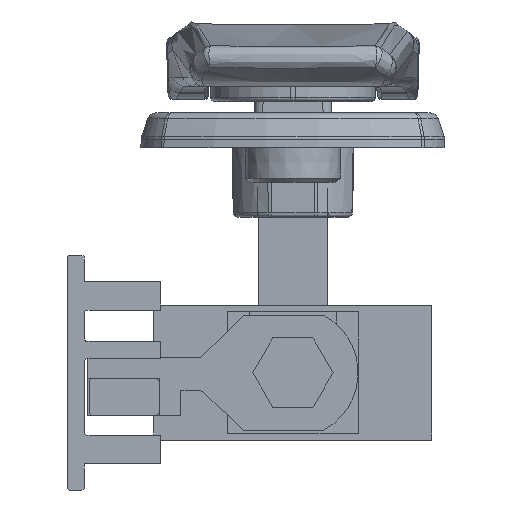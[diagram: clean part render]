
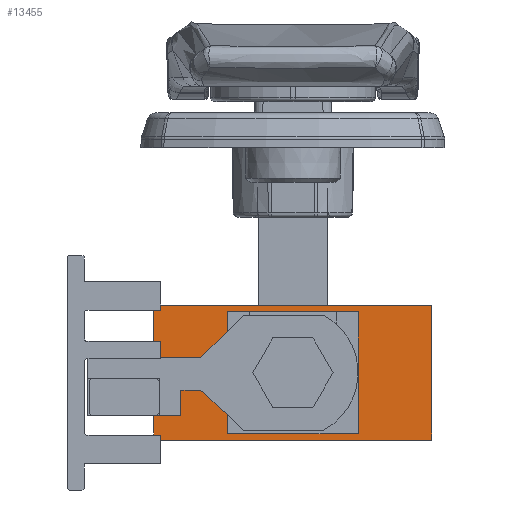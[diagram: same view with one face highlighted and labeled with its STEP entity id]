
A CAD part, front view. The second image highlights one B-rep face of the part: STEP entity #13455.
In plain terms, the highlighted planar face has unit normal (0, -1, 0).
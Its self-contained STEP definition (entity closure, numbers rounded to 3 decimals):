
#466 = VERTEX_POINT ( 'NONE', #6808 ) ;
#474 = VERTEX_POINT ( 'NONE', #6653 ) ;
#1106 = DIRECTION ( 'NONE',  ( 1., 0., 0. ) ) ;
#1478 = CARTESIAN_POINT ( 'NONE',  ( -16., -199.25, 7.75 ) ) ;
#2527 = VECTOR ( 'NONE', #24117, 1000. ) ;
#2619 = CARTESIAN_POINT ( 'NONE',  ( -7., -199.25, -6.25 ) ) ;
#4384 = CARTESIAN_POINT ( 'NONE',  ( 7., -199.25, 6.25 ) ) ;
#5606 = LINE ( 'NONE', #15525, #29724 ) ;
#5998 = DIRECTION ( 'NONE',  ( 0., 0., -1. ) ) ;
#6425 = DIRECTION ( 'NONE',  ( 0., 0., 1. ) ) ;
#6653 = CARTESIAN_POINT ( 'NONE',  ( -7., -199.25, -6.25 ) ) ;
#6664 = LINE ( 'NONE', #2619, #24461 ) ;
#6808 = CARTESIAN_POINT ( 'NONE',  ( -16., -199.25, 7.75 ) ) ;
#6845 = LINE ( 'NONE', #14793, #23293 ) ;
#8079 = ORIENTED_EDGE ( 'NONE', *, *, #31800, .F. ) ;
#9157 = ORIENTED_EDGE ( 'NONE', *, *, #24827, .F. ) ;
#9291 = ORIENTED_EDGE ( 'NONE', *, *, #14295, .T. ) ;
#9587 = VERTEX_POINT ( 'NONE', #17050 ) ;
#9590 = DIRECTION ( 'NONE',  ( 1., 0., 0. ) ) ;
#10769 = CARTESIAN_POINT ( 'NONE',  ( -16., -199.25, -7.75 ) ) ;
#10876 = DIRECTION ( 'NONE',  ( 0., 0., -1. ) ) ;
#11338 = CARTESIAN_POINT ( 'NONE',  ( 7., -199.25, 6.25 ) ) ;
#12942 = VERTEX_POINT ( 'NONE', #10769 ) ;
#13455 = ADVANCED_FACE ( 'NONE', ( #18181, #23754 ), #13780, .F. ) ;
#13467 = VERTEX_POINT ( 'NONE', #11338 ) ;
#13645 = LINE ( 'NONE', #31414, #17750 ) ;
#13678 = CARTESIAN_POINT ( 'NONE',  ( 16., -199.25, 7.75 ) ) ;
#13780 = PLANE ( 'NONE',  #31018 ) ;
#13846 = CARTESIAN_POINT ( 'NONE',  ( -16., -199.25, -7.75 ) ) ;
#14249 = VECTOR ( 'NONE', #6425, 1000. ) ;
#14295 = EDGE_CURVE ( 'NONE', #12942, #9587, #23980, .T. ) ;
#14451 = EDGE_CURVE ( 'NONE', #466, #12942, #19851, .T. ) ;
#14793 = CARTESIAN_POINT ( 'NONE',  ( -16., -199.25, 7.75 ) ) ;
#15525 = CARTESIAN_POINT ( 'NONE',  ( 16., -199.25, 7.75 ) ) ;
#15814 = VECTOR ( 'NONE', #10876, 1000. ) ;
#17042 = EDGE_LOOP ( 'NONE', ( #9291, #8079, #21343, #22351 ) ) ;
#17050 = CARTESIAN_POINT ( 'NONE',  ( 16., -199.25, -7.75 ) ) ;
#17676 = EDGE_CURVE ( 'NONE', #466, #21832, #6845, .T. ) ;
#17750 = VECTOR ( 'NONE', #5998, 1000. ) ;
#18181 = FACE_BOUND ( 'NONE', #22872, .T. ) ;
#18514 = DIRECTION ( 'NONE',  ( 0., 0., 1. ) ) ;
#18626 = ORIENTED_EDGE ( 'NONE', *, *, #22359, .F. ) ;
#19462 = ORIENTED_EDGE ( 'NONE', *, *, #27475, .F. ) ;
#19660 = ORIENTED_EDGE ( 'NONE', *, *, #28799, .F. ) ;
#19851 = LINE ( 'NONE', #29823, #15814 ) ;
#21020 = DIRECTION ( 'NONE',  ( 1., 0., 0. ) ) ;
#21343 = ORIENTED_EDGE ( 'NONE', *, *, #17676, .F. ) ;
#21467 = CARTESIAN_POINT ( 'NONE',  ( 7., -199.25, -6.25 ) ) ;
#21601 = VERTEX_POINT ( 'NONE', #21467 ) ;
#21832 = VERTEX_POINT ( 'NONE', #13678 ) ;
#21889 = LINE ( 'NONE', #28775, #14249 ) ;
#22351 = ORIENTED_EDGE ( 'NONE', *, *, #14451, .T. ) ;
#22359 = EDGE_CURVE ( 'NONE', #21601, #13467, #21889, .T. ) ;
#22872 = EDGE_LOOP ( 'NONE', ( #19660, #9157, #18626, #19462 ) ) ;
#23293 = VECTOR ( 'NONE', #9590, 1000. ) ;
#23648 = VECTOR ( 'NONE', #21020, 1000. ) ;
#23754 = FACE_OUTER_BOUND ( 'NONE', #17042, .T. ) ;
#23910 = VERTEX_POINT ( 'NONE', #25491 ) ;
#23980 = LINE ( 'NONE', #13846, #23648 ) ;
#24117 = DIRECTION ( 'NONE',  ( -1., 0., 0. ) ) ;
#24435 = LINE ( 'NONE', #4384, #2527 ) ;
#24461 = VECTOR ( 'NONE', #1106, 1000. ) ;
#24827 = EDGE_CURVE ( 'NONE', #13467, #23910, #24435, .T. ) ;
#25491 = CARTESIAN_POINT ( 'NONE',  ( -7., -199.25, 6.25 ) ) ;
#27475 = EDGE_CURVE ( 'NONE', #474, #21601, #6664, .T. ) ;
#28325 = DIRECTION ( 'NONE',  ( 0., 1., 0. ) ) ;
#28775 = CARTESIAN_POINT ( 'NONE',  ( 7., -199.25, 6.25 ) ) ;
#28799 = EDGE_CURVE ( 'NONE', #23910, #474, #13645, .T. ) ;
#29724 = VECTOR ( 'NONE', #30074, 1000. ) ;
#29823 = CARTESIAN_POINT ( 'NONE',  ( -16., -199.25, 7.75 ) ) ;
#30074 = DIRECTION ( 'NONE',  ( 0., 0., -1. ) ) ;
#31018 = AXIS2_PLACEMENT_3D ( 'NONE', #1478, #28325, #18514 ) ;
#31414 = CARTESIAN_POINT ( 'NONE',  ( -7., -199.25, -6.25 ) ) ;
#31800 = EDGE_CURVE ( 'NONE', #21832, #9587, #5606, .T. ) ;
